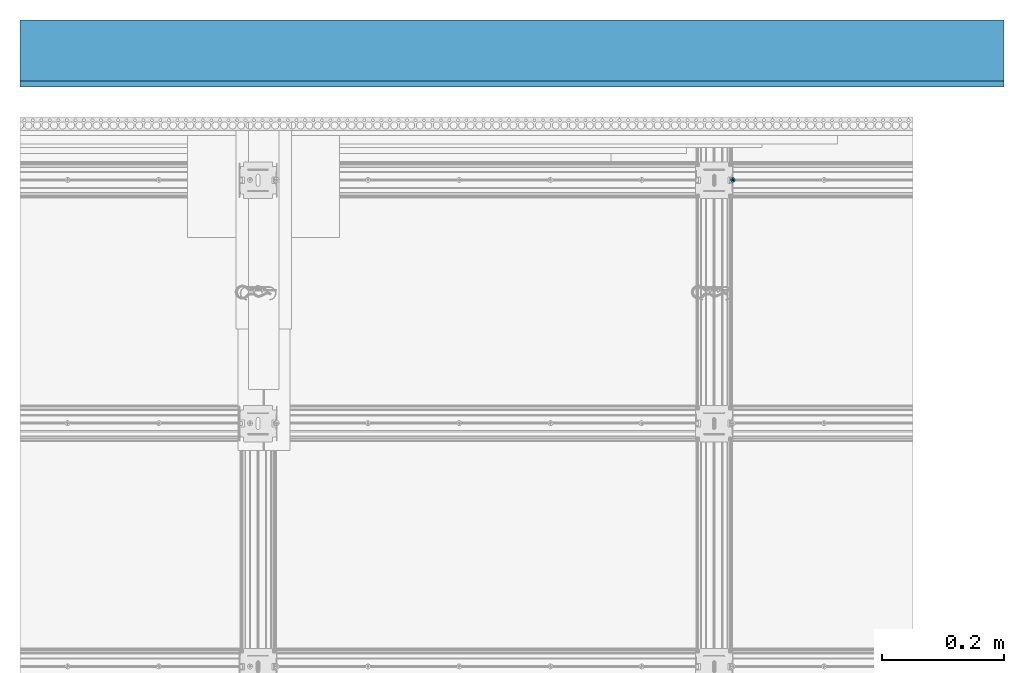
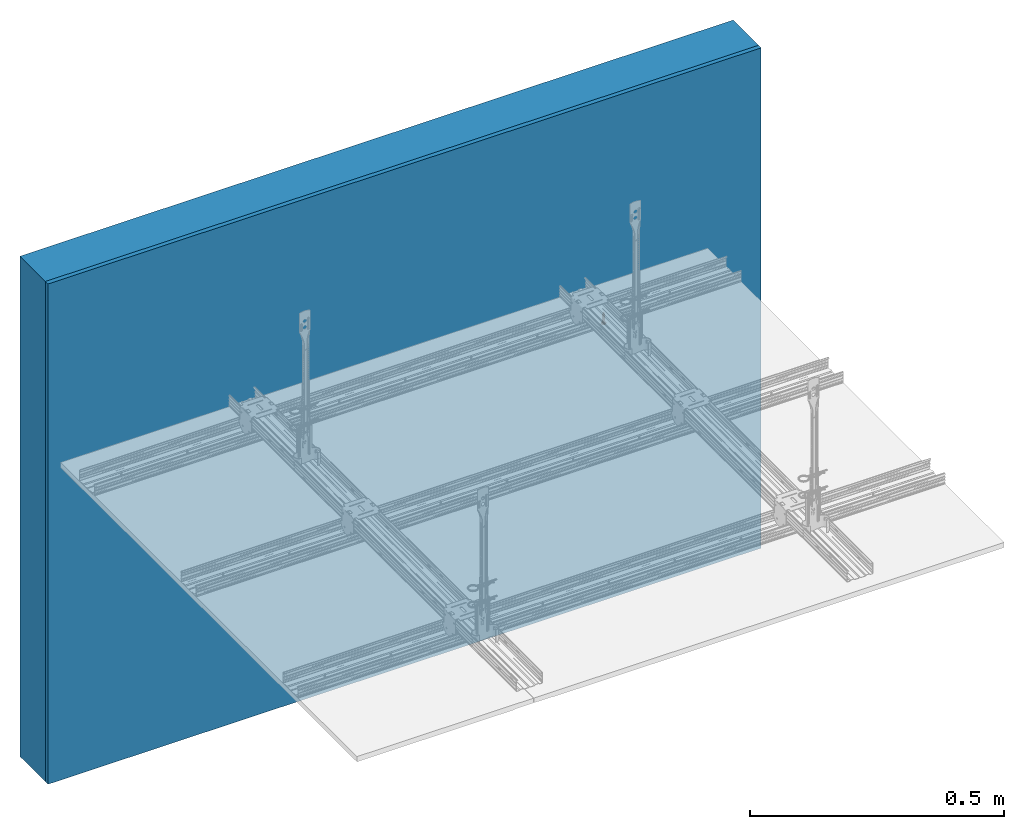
# One storey, part 34 of 34: 2 walls, 1 slab.
"""IFC2X3 building model written with IfcOpenShell, lengths in millimetres."""

from ifc_helpers import new_model, entity, si_unit, converted_unit, direction, frame, origin, origin_with_axes, place, context, project, spatial, faceted_brep, element, save


model = new_model("IFC2X3")

# Units and contexts
model_context = context("Model", 3, precision=1e-05, world=origin(), true_north=direction((0.0, 1.0, 0.0)))
ifc_project = project(units=[si_unit("LENGTHUNIT", "METRE", prefix="MILLI"), si_unit("AREAUNIT", "SQUARE_METRE"), si_unit("VOLUMEUNIT", "CUBIC_METRE"), converted_unit("PLANEANGLEUNIT", "DEGREE", entity("IfcPlaneAngleMeasure", 0.01745), si_unit("PLANEANGLEUNIT", "RADIAN"), dimensions=[0, 0, 0, 0, 0, 0, 0]), si_unit("SOLIDANGLEUNIT", "STERADIAN"), si_unit("MASSUNIT", "GRAM"), si_unit("TIMEUNIT", "SECOND"), si_unit("THERMODYNAMICTEMPERATUREUNIT", "DEGREE_CELSIUS"), si_unit("LUMINOUSINTENSITYUNIT", "LUMEN")], contexts=[model_context])

# Site, building, storey
site_placement = place(None, origin_with_axes())
site = spatial("IfcSite", under=ifc_project, at=site_placement, Name="Default Site", CompositionType="ELEMENT")
building_placement = place(site_placement, origin_with_axes())
building = spatial("IfcBuilding", under=site, at=building_placement, Name="Default Building", CompositionType="ELEMENT")
storey_placement = place(building_placement, origin_with_axes())
storey = spatial("IfcBuildingStorey", under=building, at=storey_placement, Name="Default Building Storey", CompositionType="ELEMENT", Elevation=0.0)

# Slab
slab_placement = place(storey_placement, frame((3434.616074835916, 1323.338377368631, 4371.30616226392), z_axis=(0.0, 1.0, 2.220446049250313e-16), x_axis=(1.0, -1.802054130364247e-31, 8.115730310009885e-16)))
element("IfcSlab", 1, at=slab_placement, inside=storey, Name="Wkręt RIGIPS TN 25", context=model_context, shape_type="Brep", body=[
    faceted_brep([(-136.5890362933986, 3387.475459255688, 554.9298199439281), (-136.4636235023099, 3387.475459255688, 555.0766594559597), (-136.4636235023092, 3370.55807436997, 555.0766594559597), (-136.5890362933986, 3370.55807436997, 554.9298199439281), (-136.9005263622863, 3387.475459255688, 554.7035091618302), (-136.9005263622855, 3370.55807436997, 554.7035091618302), (-137.0789337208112, 3370.55807436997, 554.6296104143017), (-137.078933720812, 3387.475459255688, 554.6296104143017), (-137.2667048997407, 3387.475459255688, 554.5845305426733), (-137.2667048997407, 3370.55807436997, 554.5845305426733), (-137.4592163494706, 3370.55807436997, 554.5693795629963), (-137.4592163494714, 3387.475459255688, 554.5693795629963), (-136.4636235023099, 3387.475459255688, 556.5233405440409), (-136.5890362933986, 3387.475459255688, 556.6701800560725), (-136.5890362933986, 3370.55807436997, 556.6701800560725), (-136.4636235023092, 3370.55807436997, 556.5233405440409), (-138.4548091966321, 3370.55807436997, 556.5233405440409), (-138.3293964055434, 3370.55807436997, 556.6701800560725), (-138.3293964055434, 3387.475459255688, 556.6701800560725), (-138.4548091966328, 3387.475459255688, 556.5233405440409), (-136.7358758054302, 3370.55807436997, 554.8044071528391), (-136.7358758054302, 3387.475459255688, 554.8044071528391), (-138.1825568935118, 3387.475459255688, 556.7955928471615), (-138.1825568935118, 3370.55807436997, 556.7955928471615), (-138.0179063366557, 3370.55807436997, 556.8964908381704), (-138.0179063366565, 3387.475459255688, 556.8964908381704), (-136.3627255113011, 3387.475459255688, 556.3586899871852), (-136.3627255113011, 3370.55807436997, 556.3586899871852), (-136.7358758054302, 3387.475459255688, 556.7955928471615), (-136.7358758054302, 3370.55807436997, 556.7955928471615), (-137.6517277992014, 3387.475459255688, 554.5845305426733), (-137.6517277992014, 3370.55807436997, 554.5845305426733), (-137.83949897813, 3370.55807436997, 554.6296104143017), (-137.8394989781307, 3387.475459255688, 554.6296104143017), (-136.3627255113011, 3387.475459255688, 555.241310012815), (-136.3627255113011, 3370.55807436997, 555.241310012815), (-138.0179063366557, 3370.55807436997, 554.7035091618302), (-138.0179063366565, 3387.475459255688, 554.7035091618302), (-138.6746858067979, 3370.55807436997, 555.6074885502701), (-138.6898367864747, 3370.55807436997, 555.8000000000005), (-138.6898367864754, 3387.475459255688, 555.8000000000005), (-138.6746858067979, 3387.475459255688, 555.6074885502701), (-136.2285959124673, 3387.475459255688, 555.8000000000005), (-136.2437468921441, 3387.475459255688, 555.9925114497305), (-136.2437468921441, 3370.55807436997, 555.9925114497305), (-136.2285959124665, 3370.55807436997, 555.8000000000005), (-138.3293964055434, 3370.55807436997, 554.9298199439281), (-138.4548091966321, 3370.55807436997, 555.0766594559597), (-138.4548091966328, 3387.475459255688, 555.0766594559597), (-138.3293964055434, 3387.475459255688, 554.9298199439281), (-137.83949897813, 3370.55807436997, 556.9703895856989), (-137.8394989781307, 3387.475459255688, 556.9703895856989), (-138.1825568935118, 3370.55807436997, 554.8044071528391), (-138.1825568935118, 3387.475459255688, 554.8044071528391), (-138.5557071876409, 3370.55807436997, 555.241310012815), (-138.6296059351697, 3370.55807436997, 555.4197173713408), (-138.6296059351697, 3387.475459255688, 555.4197173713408), (-138.5557071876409, 3387.475459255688, 555.241310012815), (-136.2888267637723, 3387.475459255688, 555.4197173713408), (-136.2437468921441, 3387.475459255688, 555.6074885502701), (-136.2437468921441, 3370.55807436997, 555.6074885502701), (-136.2888267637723, 3370.55807436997, 555.4197173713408), (-136.2888267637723, 3387.475459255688, 556.1802826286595), (-136.2888267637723, 3370.55807436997, 556.1802826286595), (-137.4592163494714, 3387.475459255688, 557.0306204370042), (-137.4592163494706, 3370.55807436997, 557.0306204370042), (-137.2667048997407, 3370.55807436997, 557.0154694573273), (-137.2667048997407, 3387.475459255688, 557.0154694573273), (-137.0789337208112, 3370.55807436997, 556.9703895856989), (-137.078933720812, 3387.475459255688, 556.9703895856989), (-137.6517277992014, 3387.475459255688, 557.0154694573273), (-137.6517277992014, 3370.55807436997, 557.0154694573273), (-136.9005263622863, 3387.475459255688, 556.8964908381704), (-136.9005263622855, 3370.55807436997, 556.8964908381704), (-138.6296059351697, 3370.55807436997, 556.1802826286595), (-138.5557071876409, 3370.55807436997, 556.3586899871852), (-138.5557071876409, 3387.475459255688, 556.3586899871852), (-138.6296059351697, 3387.475459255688, 556.1802826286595), (-138.6746858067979, 3370.55807436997, 555.9925114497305), (-138.6746858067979, 3387.475459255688, 555.9925114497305), (-141.5377463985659, 3390.556721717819, 555.8000000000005), (-141.5377463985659, 3391.020944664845, 555.8000000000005), (-141.4875329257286, 3391.020944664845, 555.1619773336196), (-141.4875329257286, 3390.556721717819, 555.1619773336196), (-141.338128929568, 3391.020944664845, 554.539664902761), (-141.338128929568, 3390.556721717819, 554.539664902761), (-141.0932132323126, 3391.020944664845, 553.948386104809), (-141.0932132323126, 3390.556721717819, 553.948386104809), (-140.7588164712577, 3391.020944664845, 553.4027001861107), (-140.7588164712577, 3390.556721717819, 553.4027001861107), (-140.3431726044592, 3391.020944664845, 552.9160437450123), (-140.4541727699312, 3390.556721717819, 553.0314907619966), (-140.1080097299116, 3390.556721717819, 552.6986614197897), (-139.8565161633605, 3391.020944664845, 552.5003998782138), (-139.7251262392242, 3390.556721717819, 552.4088262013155), (-139.3108302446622, 3391.020944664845, 552.1660031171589), (-139.3108302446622, 3390.556721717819, 552.1660031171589), (-138.8708651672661, 3390.556721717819, 551.9735584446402), (-138.7195514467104, 3391.020944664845, 551.9210874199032), (-138.4113302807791, 3390.556721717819, 551.8341600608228), (-137.9385961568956, 3390.556721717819, 551.7497404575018), (-138.0972390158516, 3391.020944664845, 551.7716834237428), (-137.4592163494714, 3391.020944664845, 551.7214699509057), (-137.4592163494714, 3390.556721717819, 551.7214699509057), (-136.8211936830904, 3391.020944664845, 551.7716834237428), (-136.8211936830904, 3390.556721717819, 551.7716834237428), (-136.1988812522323, 3391.020944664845, 551.9210874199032), (-136.1988812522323, 3390.556721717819, 551.9210874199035), (-135.6076024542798, 3391.020944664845, 552.1660031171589), (-135.6076024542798, 3390.556721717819, 552.1660031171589), (-135.0619165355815, 3391.020944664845, 552.5003998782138), (-135.0619165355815, 3390.556721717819, 552.5003998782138), (-134.5752600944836, 3391.020944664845, 552.9160437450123), (-134.5752600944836, 3390.556721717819, 552.9160437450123), (-134.1596162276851, 3391.020944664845, 553.4027001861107), (-134.1596162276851, 3390.556721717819, 553.4027001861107), (-133.8252194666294, 3391.020944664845, 553.948386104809), (-133.8252194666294, 3390.556721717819, 553.948386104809), (-133.580303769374, 3391.020944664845, 554.539664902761), (-133.580303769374, 3390.556721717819, 554.539664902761), (-133.4308997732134, 3391.020944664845, 556.438022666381), (-133.4308997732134, 3390.556721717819, 556.438022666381), (-133.3806863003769, 3390.556721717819, 555.8000000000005), (-133.3806863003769, 3391.020944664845, 555.8000000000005), (-133.4308997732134, 3390.556721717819, 555.1619773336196), (-133.4308997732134, 3391.020944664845, 555.1619773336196), (-133.580303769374, 3391.020944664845, 557.0603350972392), (-133.580303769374, 3390.556721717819, 557.0603350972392), (-133.8252194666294, 3391.020944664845, 557.6516138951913), (-133.8252194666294, 3390.556721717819, 557.6516138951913), (-134.1596162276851, 3391.020944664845, 558.1972998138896), (-134.1596162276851, 3390.556721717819, 558.1972998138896), (-134.5752600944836, 3391.020944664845, 558.683956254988), (-134.5752600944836, 3390.556721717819, 558.683956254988), (-135.0619165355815, 3391.020944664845, 559.0996001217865), (-135.0619165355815, 3390.556721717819, 559.0996001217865), (-135.6076024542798, 3391.020944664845, 559.4339968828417), (-135.6076024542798, 3390.556721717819, 559.4339968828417), (-136.1988812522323, 3391.020944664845, 559.6789125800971), (-136.1988812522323, 3390.556721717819, 559.6789125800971), (-136.8211936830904, 3391.020944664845, 559.8283165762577), (-136.8211936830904, 3390.556721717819, 559.8283165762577), (-137.4592163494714, 3391.020944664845, 559.8785300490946), (-137.4592163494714, 3390.556721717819, 559.8785300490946), (-138.0972390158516, 3391.020944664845, 559.8283165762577), (-138.0972390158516, 3390.556721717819, 559.8283165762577), (-138.7195514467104, 3391.020944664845, 559.6789125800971), (-138.7195514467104, 3390.556721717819, 559.6789125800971), (-139.3108302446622, 3391.020944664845, 559.4339968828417), (-139.3108302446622, 3390.556721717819, 559.4339968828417), (-139.8565161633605, 3391.020944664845, 559.0996001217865), (-139.8565161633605, 3390.556721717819, 559.0996001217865), (-140.3431726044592, 3391.020944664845, 558.683956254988), (-140.3431726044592, 3390.556721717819, 558.683956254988), (-140.7588164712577, 3391.020944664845, 558.1972998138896), (-140.7588164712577, 3390.556721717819, 558.1972998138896), (-141.0932132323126, 3391.020944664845, 557.6516138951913), (-141.0932132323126, 3390.556721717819, 557.6516138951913), (-141.338128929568, 3391.020944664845, 557.0603350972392), (-141.338128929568, 3390.556721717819, 557.0603350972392), (-141.4875329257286, 3391.020944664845, 556.438022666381), (-141.4875329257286, 3390.556721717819, 556.438022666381), (-137.8060615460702, 3388.229732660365, 554.5055560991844), (-137.4592163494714, 3388.229732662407, 554.4598930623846), (-138.1292698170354, 3388.229732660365, 554.6394333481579), (-138.4068150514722, 3388.229732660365, 554.8524012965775), (-138.6197830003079, 3388.229732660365, 555.1299465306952), (-138.7536602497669, 3388.229732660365, 555.4531548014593), (-138.7993232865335, 3388.229732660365, 555.7999999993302), (-138.7536602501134, 3388.229732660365, 556.1468451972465), (-138.6197830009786, 3388.229732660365, 556.4700534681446), (-138.4068150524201, 3388.229732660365, 556.7475987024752), (-138.1292698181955, 3388.229732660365, 556.9605666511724), (-137.8060615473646, 3388.229732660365, 557.0944439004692), (-137.4592163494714, 3388.229732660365, 557.1401069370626), (-137.1123711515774, 3388.229732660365, 557.0944439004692), (-136.7891628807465, 3388.229732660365, 556.9605666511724), (-136.5116176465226, 3388.229732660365, 556.7475987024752), (-136.2986496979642, 3388.229732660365, 556.4700534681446), (-136.1647724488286, 3388.229732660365, 556.1468451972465), (-136.1191094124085, 3388.229732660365, 555.7999999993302), (-136.1647724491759, 3388.229732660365, 555.4531548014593), (-136.2986496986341, 3388.229732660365, 555.1299465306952), (-136.5116176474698, 3388.229732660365, 554.8524012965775), (-136.7891628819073, 3388.229732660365, 554.6394333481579), (-137.1123711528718, 3388.229732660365, 554.5055560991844), (-137.4592163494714, 3388.936142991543, 554.1737111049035), (-137.8801308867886, 3388.936142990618, 554.2291255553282), (-138.2723607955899, 3388.936142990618, 554.39159250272), (-138.6091762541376, 3388.936142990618, 554.6500400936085), (-138.8676238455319, 3388.936142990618, 554.9868555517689), (-139.0300907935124, 3388.936142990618, 555.3790854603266), (-139.0855052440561, 3388.936142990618, 555.7999999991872), (-139.0300907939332, 3388.936142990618, 556.2209145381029), (-138.8676238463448, 3388.936142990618, 556.6131444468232), (-138.6091762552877, 3388.936142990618, 556.949959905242), (-138.2723607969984, 3388.936142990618, 557.2084074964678), (-137.8801308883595, 3388.936142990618, 557.3708744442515), (-137.4592163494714, 3388.936142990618, 557.4262888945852), (-137.0383018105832, 3388.936142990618, 557.3708744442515), (-136.6460719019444, 3388.936142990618, 557.2084074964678), (-136.3092564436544, 3388.936142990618, 556.949959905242), (-136.0508088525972, 3388.936142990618, 556.6131444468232), (-135.8883419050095, 3388.936142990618, 556.2209145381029), (-135.8329274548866, 3388.936142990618, 555.7999999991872), (-135.8883419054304, 3388.936142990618, 555.3790854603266), (-136.0508088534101, 3388.936142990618, 554.9868555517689), (-136.3092564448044, 3388.936142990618, 554.6500400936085), (-136.6460719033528, 3388.936142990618, 554.39159250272), (-137.0383018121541, 3388.936142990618, 554.2291255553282), (-137.4592163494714, 3389.553938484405, 553.727343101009), (-137.9956594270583, 3389.553938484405, 553.7979671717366), (-138.4955447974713, 3389.553938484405, 554.0050264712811), (-138.9248060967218, 3389.553938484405, 554.3344102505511), (-139.2541898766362, 3389.553938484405, 554.7636715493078), (-139.46124917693, 3389.553938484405, 555.2635569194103), (-139.5318732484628, 3389.553938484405, 555.7999999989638), (-139.4612491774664, 3389.553938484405, 556.3364430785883), (-139.2541898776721, 3389.553938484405, 556.8363284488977), (-138.9248060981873, 3389.553938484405, 557.2655897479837), (-138.495544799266, 3389.553938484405, 557.5949735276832), (-137.9956594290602, 3389.553938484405, 557.8020328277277), (-137.4592163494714, 3389.553938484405, 557.8726568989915), (-136.9227732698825, 3389.553938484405, 557.8020328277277), (-136.422887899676, 3389.553938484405, 557.5949735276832), (-135.9936266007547, 3389.553938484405, 557.2655897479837), (-135.6642428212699, 3389.553938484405, 556.8363284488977), (-135.4571835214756, 3389.553938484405, 556.3364430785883), (-135.3865594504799, 3389.553938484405, 555.7999999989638), (-135.457183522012, 3389.553938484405, 555.2635569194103), (-135.6642428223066, 3389.553938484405, 554.7636715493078), (-135.9936266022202, 3389.553938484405, 554.3344102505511), (-136.4228879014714, 3389.553938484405, 554.0050264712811), (-136.9227732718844, 3389.553938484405, 553.7979671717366), (-137.4592163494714, 3390.04747944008, 553.1465393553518), (-138.1459824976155, 3390.047479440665, 553.2369538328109), (-138.7859466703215, 3390.047479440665, 553.5020356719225), (-139.3354963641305, 3390.047479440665, 553.9237199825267), (-139.757180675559, 3390.047479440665, 554.4732696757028), (-140.0222625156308, 3390.047479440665, 555.1132338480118), (-140.1126769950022, 3390.047479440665, 555.7999999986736), (-140.0222625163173, 3390.047479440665, 556.4867661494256), (-139.7571806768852, 3390.047479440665, 557.1267303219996), (-139.3354963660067, 3390.047479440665, 557.6762800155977), (-138.7859466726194, 3390.047479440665, 558.0979643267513), (-138.1459825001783, 3390.047479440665, 558.3630461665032), (-137.4592163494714, 3390.047479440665, 558.4534606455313), (-136.7724501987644, 3390.047479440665, 558.3630461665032), (-136.1324860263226, 3390.047479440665, 558.0979643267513), (-135.5829363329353, 3390.047479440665, 557.6762800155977), (-135.1612520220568, 3390.047479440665, 557.1267303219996), (-134.8961701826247, 3390.047479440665, 556.4867661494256), (-134.8057557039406, 3390.047479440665, 555.7999999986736), (-134.8961701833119, 3390.047479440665, 555.1132338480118), (-135.1612520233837, 3390.047479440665, 554.4732696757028), (-135.5829363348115, 3390.047479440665, 553.9237199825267), (-136.1324860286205, 3390.047479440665, 553.5020356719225), (-136.7724502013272, 3390.047479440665, 553.2369538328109), (-137.4592163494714, 3390.388294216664, 552.4648055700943), (-138.3224281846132, 3390.388294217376, 552.5784495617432), (-139.1268135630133, 3390.388294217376, 552.9116368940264), (-139.8175549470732, 3390.388294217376, 553.4416613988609), (-140.3475794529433, 3390.388294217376, 554.1324027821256), (-140.6807667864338, 3390.388294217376, 554.9367881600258), (-140.7944107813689, 3390.388294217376, 555.7999999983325), (-140.6807667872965, 3390.388294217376, 556.6632118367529), (-140.3475794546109, 3390.388294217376, 557.4675972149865), (-139.8175549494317, 3390.388294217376, 558.1583385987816), (-139.1268135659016, 3390.388294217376, 558.6883631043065), (-138.3224281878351, 3390.388294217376, 559.0215504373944), (-137.4592163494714, 3390.388294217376, 559.1351944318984), (-136.5960045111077, 3390.388294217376, 559.0215504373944), (-135.7916191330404, 3390.388294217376, 558.6883631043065), (-135.1008777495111, 3390.388294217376, 558.1583385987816), (-134.5708532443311, 3390.388294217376, 557.4675972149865), (-134.2376659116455, 3390.388294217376, 556.6632118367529), (-134.1240219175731, 3390.388294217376, 555.7999999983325), (-134.2376659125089, 3390.388294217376, 554.9367881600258), (-134.5708532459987, 3390.388294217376, 554.1324027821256), (-135.1008777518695, 3390.388294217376, 553.4416613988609), (-135.7916191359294, 3390.388294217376, 552.9116368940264), (-136.5960045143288, 3390.388294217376, 552.5784495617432), (-137.4592163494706, 3366.021033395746, 555.8000000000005), (-139.9592163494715, 3391.020944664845, 556.3000000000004), (-137.9592163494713, 3391.020944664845, 556.3000000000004), (-139.9592163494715, 3391.020944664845, 555.3000000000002), (-137.9592163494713, 3391.020944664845, 555.3000000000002), (-137.9592163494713, 3391.020944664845, 553.3000000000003), (-136.9592163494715, 3391.020944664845, 553.3000000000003), (-136.9592163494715, 3391.020944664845, 555.3000000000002), (-134.9592163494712, 3391.020944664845, 555.3000000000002), (-134.9592163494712, 3391.020944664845, 556.3000000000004), (-136.9592163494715, 3391.020944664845, 556.3000000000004), (-136.9592163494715, 3391.020944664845, 558.3000000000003), (-137.9592163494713, 3391.020944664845, 558.3000000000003), (-136.9592163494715, 3390.128974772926, 556.3000000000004), (-134.9592163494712, 3390.128974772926, 556.3000000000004), (-134.9592163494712, 3390.128974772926, 555.3000000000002), (-136.9592163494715, 3390.128974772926, 555.3000000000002), (-136.9592163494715, 3390.128974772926, 553.3000000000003), (-137.9592163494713, 3390.128974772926, 553.3000000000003), (-137.9592163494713, 3390.128974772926, 555.3000000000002), (-139.9592163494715, 3390.128974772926, 555.3000000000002), (-139.9592163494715, 3390.128974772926, 556.3000000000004), (-137.9592163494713, 3390.128974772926, 556.3000000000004), (-137.9592163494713, 3390.128974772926, 558.3000000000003), (-136.9592163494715, 3390.128974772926, 558.3000000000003)], [[[0, 1, 2, 3]], [[4, 5, 6, 7]], [[8, 9, 10, 11]], [[12, 13, 14, 15]], [[16, 17, 18, 19]], [[0, 3, 20, 21]], [[22, 23, 24, 25]], [[26, 12, 15, 27]], [[28, 29, 14, 13]], [[30, 31, 32, 33]], [[1, 34, 35, 2]], [[18, 17, 23, 22]], [[7, 6, 9, 8]], [[33, 32, 36, 37]], [[38, 39, 40, 41]], [[42, 43, 44, 45]], [[46, 47, 48, 49]], [[25, 24, 50, 51]], [[37, 36, 52, 53]], [[54, 55, 56, 57]], [[53, 52, 46, 49]], [[47, 54, 57, 48]], [[58, 59, 60, 61]], [[59, 42, 45, 60]], [[43, 62, 63, 44]], [[64, 65, 66, 67]], [[67, 66, 68, 69]], [[55, 38, 41, 56]], [[70, 71, 65, 64]], [[72, 73, 29, 28]], [[74, 75, 76, 77]], [[69, 68, 73, 72]], [[39, 78, 79, 40]], [[75, 16, 19, 76]], [[62, 26, 27, 63]], [[11, 10, 31, 30]], [[21, 20, 5, 4]], [[34, 58, 61, 35]], [[51, 50, 71, 70]], [[78, 74, 77, 79]], [[80, 81, 82, 83]], [[84, 85, 83, 82]], [[86, 87, 85, 84]], [[87, 86, 88, 89]], [[88, 90, 89]], [[90, 91, 89]], [[92, 91, 93]], [[91, 90, 93]], [[93, 94, 92]], [[93, 95, 94]], [[95, 96, 94]], [[97, 96, 98]], [[96, 95, 98]], [[98, 99, 97]], [[100, 99, 101]], [[99, 98, 101]], [[101, 102, 100]], [[102, 103, 100]], [[103, 102, 104, 105]], [[106, 107, 105, 104]], [[108, 109, 107, 106]], [[109, 108, 110, 111]], [[112, 113, 111, 110]], [[113, 112, 114, 115]], [[116, 117, 115, 114]], [[118, 119, 117, 116]], [[120, 121, 122, 123]], [[123, 122, 124, 125]], [[119, 118, 125, 124]], [[126, 127, 121, 120]], [[128, 129, 127, 126]], [[129, 128, 130, 131]], [[132, 133, 131, 130]], [[133, 132, 134, 135]], [[136, 137, 135, 134]], [[138, 139, 137, 136]], [[139, 138, 140, 141]], [[142, 143, 141, 140]], [[143, 142, 144, 145]], [[146, 147, 145, 144]], [[148, 149, 147, 146]], [[149, 148, 150, 151]], [[152, 153, 151, 150]], [[153, 152, 154, 155]], [[156, 157, 155, 154]], [[158, 159, 157, 156]], [[159, 158, 160, 161]], [[81, 80, 161, 160]], [[162, 11, 30]], [[162, 163, 11]], [[30, 33, 162]], [[162, 33, 164]], [[37, 164, 33]], [[164, 37, 53]], [[53, 165, 164]], [[53, 49, 165]], [[166, 49, 48]], [[166, 165, 49]], [[48, 57, 166]], [[166, 57, 167]], [[56, 167, 57]], [[167, 56, 41]], [[41, 168, 167]], [[41, 40, 168]], [[169, 40, 79]], [[169, 168, 40]], [[79, 77, 169]], [[169, 77, 170]], [[76, 170, 77]], [[170, 76, 19]], [[19, 171, 170]], [[19, 18, 171]], [[172, 18, 22]], [[172, 171, 18]], [[22, 25, 172]], [[172, 25, 173]], [[51, 173, 25]], [[173, 51, 70]], [[70, 174, 173]], [[70, 64, 174]], [[175, 64, 67]], [[175, 174, 64]], [[67, 69, 175]], [[175, 69, 176]], [[72, 176, 69]], [[176, 72, 28]], [[28, 177, 176]], [[28, 13, 177]], [[178, 13, 12]], [[178, 177, 13]], [[12, 26, 178]], [[178, 26, 179]], [[62, 179, 26]], [[179, 62, 43]], [[43, 180, 179]], [[43, 42, 180]], [[181, 42, 59]], [[181, 180, 42]], [[59, 58, 181]], [[181, 58, 182]], [[34, 182, 58]], [[182, 34, 1]], [[1, 183, 182]], [[1, 0, 183]], [[184, 0, 21]], [[184, 183, 0]], [[21, 4, 184]], [[184, 4, 185]], [[7, 185, 4]], [[185, 7, 8]], [[8, 163, 185]], [[8, 11, 163]], [[186, 163, 187]], [[162, 187, 163]], [[164, 188, 187, 162]], [[165, 189, 188, 164]], [[166, 190, 189, 165]], [[167, 191, 190, 166]], [[168, 192, 191, 167]], [[169, 193, 192, 168]], [[170, 194, 193, 169]], [[171, 195, 194, 170]], [[172, 196, 195, 171]], [[173, 197, 196, 172]], [[174, 198, 197, 173]], [[175, 199, 198, 174]], [[176, 200, 199, 175]], [[177, 201, 200, 176]], [[178, 202, 201, 177]], [[179, 203, 202, 178]], [[180, 204, 203, 179]], [[181, 205, 204, 180]], [[182, 206, 205, 181]], [[183, 207, 206, 182]], [[184, 208, 207, 183]], [[185, 209, 208, 184]], [[185, 163, 209]], [[186, 209, 163]], [[210, 186, 211]], [[187, 211, 186]], [[188, 212, 211, 187]], [[189, 213, 212, 188]], [[190, 214, 213, 189]], [[191, 215, 214, 190]], [[192, 216, 215, 191]], [[193, 217, 216, 192]], [[194, 218, 217, 193]], [[195, 219, 218, 194]], [[196, 220, 219, 195]], [[197, 221, 220, 196]], [[198, 222, 221, 197]], [[199, 223, 222, 198]], [[200, 224, 223, 199]], [[201, 225, 224, 200]], [[202, 226, 225, 201]], [[203, 227, 226, 202]], [[204, 228, 227, 203]], [[205, 229, 228, 204]], [[206, 230, 229, 205]], [[207, 231, 230, 206]], [[208, 232, 231, 207]], [[209, 233, 232, 208]], [[209, 186, 233]], [[210, 233, 186]], [[234, 210, 235]], [[211, 235, 210]], [[212, 236, 235, 211]], [[213, 237, 236, 212]], [[214, 238, 237, 213]], [[215, 239, 238, 214]], [[216, 240, 239, 215]], [[217, 241, 240, 216]], [[218, 242, 241, 217]], [[219, 243, 242, 218]], [[220, 244, 243, 219]], [[221, 245, 244, 220]], [[222, 246, 245, 221]], [[223, 247, 246, 222]], [[224, 248, 247, 223]], [[225, 249, 248, 224]], [[226, 250, 249, 225]], [[227, 251, 250, 226]], [[228, 252, 251, 227]], [[229, 253, 252, 228]], [[230, 254, 253, 229]], [[231, 255, 254, 230]], [[232, 256, 255, 231]], [[233, 257, 256, 232]], [[233, 210, 257]], [[234, 257, 210]], [[258, 99, 100]], [[258, 259, 99]], [[100, 103, 258]], [[258, 234, 259]], [[235, 259, 234]], [[259, 96, 97]], [[259, 260, 96]], [[97, 99, 259]], [[236, 260, 259, 235]], [[261, 91, 92]], [[260, 92, 94]], [[260, 261, 92]], [[94, 96, 260]], [[237, 261, 260, 236]], [[262, 87, 89]], [[89, 261, 262]], [[89, 91, 261]], [[238, 262, 261, 237]], [[85, 87, 263]], [[262, 263, 87]], [[239, 263, 262, 238]], [[263, 80, 83]], [[263, 264, 80]], [[83, 85, 263]], [[240, 264, 263, 239]], [[265, 159, 161]], [[161, 264, 265]], [[161, 80, 264]], [[241, 265, 264, 240]], [[265, 266, 157, 159]], [[242, 266, 265, 241]], [[266, 153, 155]], [[266, 267, 153]], [[155, 157, 266]], [[243, 267, 266, 242]], [[268, 149, 151]], [[151, 267, 268]], [[151, 153, 267]], [[244, 268, 267, 243]], [[268, 269, 147, 149]], [[245, 269, 268, 244]], [[269, 143, 145]], [[269, 270, 143]], [[145, 147, 269]], [[246, 270, 269, 245]], [[271, 139, 141]], [[141, 270, 271]], [[141, 143, 270]], [[247, 271, 270, 246]], [[271, 272, 137, 139]], [[248, 272, 271, 247]], [[272, 133, 135]], [[272, 273, 133]], [[135, 137, 272]], [[249, 273, 272, 248]], [[274, 129, 131]], [[131, 273, 274]], [[131, 133, 273]], [[250, 274, 273, 249]], [[274, 275, 127, 129]], [[251, 275, 274, 250]], [[275, 122, 121]], [[275, 276, 122]], [[121, 127, 275]], [[252, 276, 275, 251]], [[277, 119, 124]], [[124, 276, 277]], [[124, 122, 276]], [[253, 277, 276, 252]], [[117, 119, 278]], [[277, 278, 119]], [[254, 278, 277, 253]], [[278, 113, 115]], [[278, 279, 113]], [[115, 117, 278]], [[255, 279, 278, 254]], [[280, 109, 111]], [[111, 279, 280]], [[111, 113, 279]], [[256, 280, 279, 255]], [[107, 109, 281]], [[280, 281, 109]], [[257, 281, 280, 256]], [[257, 234, 281]], [[258, 281, 234]], [[281, 103, 105]], [[281, 258, 103]], [[105, 107, 281]], [[38, 55, 282]], [[282, 39, 38]], [[55, 54, 282]], [[47, 46, 282]], [[282, 54, 47]], [[52, 36, 282]], [[282, 46, 52]], [[36, 32, 282]], [[31, 10, 282]], [[282, 32, 31]], [[9, 6, 282]], [[282, 10, 9]], [[6, 5, 282]], [[20, 3, 282]], [[282, 5, 20]], [[2, 35, 282]], [[282, 3, 2]], [[35, 61, 282]], [[60, 45, 282]], [[282, 61, 60]], [[44, 63, 282]], [[282, 45, 44]], [[63, 27, 282]], [[15, 14, 282]], [[282, 27, 15]], [[29, 73, 282]], [[282, 14, 29]], [[73, 68, 282]], [[66, 65, 282]], [[282, 68, 66]], [[71, 50, 282]], [[282, 65, 71]], [[50, 24, 282]], [[23, 17, 282]], [[282, 24, 23]], [[16, 75, 282]], [[282, 17, 16]], [[75, 74, 282]], [[78, 39, 282]], [[282, 74, 78]], [[283, 156, 154, 284]], [[283, 285, 286, 287, 288, 289, 290, 291, 292, 293, 294, 284, 154, 152, 150, 148, 146, 144, 142, 140, 138, 136, 134, 132, 130, 128, 126, 120, 123, 125, 118, 116, 114, 112, 110, 108, 106, 104, 102, 101, 98, 95, 93, 90, 88, 86, 84, 82, 81, 160, 158, 156]], [[295, 296, 297, 298, 299, 300, 301, 302, 303, 304, 305, 306]], [[297, 290, 289, 298]], [[296, 291, 290, 297]], [[295, 292, 291, 296]], [[306, 293, 292, 295]], [[305, 294, 293, 306]], [[304, 284, 294, 305]], [[303, 283, 284, 304]], [[302, 285, 283, 303]], [[301, 286, 285, 302]], [[300, 287, 286, 301]], [[299, 288, 287, 300]], [[298, 289, 288, 299]]]),
])

# Walls
wall_1_placement = place(storey_placement, frame((3516.951496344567, -1268.142300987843, 1387.224461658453), z_axis=(7.620176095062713e-14, 6.858158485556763e-13, -1.0), x_axis=(1.0, 9.714451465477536e-17, 7.62017609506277e-14)))
element("IfcWall", 2, at=wall_1_placement, inside=storey, Name="ŚCIANA", context=model_context, shape_type="Brep", body=[
    faceted_brep([(-1391.926362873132, -3410.283223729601, -4.2000000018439), (226.0891218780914, -3410.283223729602, -4.20000000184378), (226.0891218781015, -3310.283223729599, -4.200000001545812), (-1391.926362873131, -3310.283223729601, -4.200000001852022), (226.0891218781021, -3310.283223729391, 1195.799999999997), (-1391.926362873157, -3310.283223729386, 1195.800000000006), (226.0891218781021, -3410.28322372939, 1195.799999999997), (-1391.926362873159, -3410.28322372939, 1195.8)], [[[0, 1, 2, 3]], [[3, 2, 4, 5]], [[6, 7, 5, 4]], [[4, 2, 1, 6]], [[0, 7, 6, 1]], [[0, 3, 5, 7]]]),
])
wall_2_placement = place(storey_placement, frame((3516.951496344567, -1278.142300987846, 1387.22446165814), z_axis=(7.620176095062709e-14, 6.858158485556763e-13, -1.0), x_axis=(1.0, 9.714451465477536e-17, 7.62017609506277e-14)))
element("IfcWall", 3, at=wall_2_placement, inside=storey, Name="TYNK", context=model_context, shape_type="Brep", body=[
    faceted_brep([(-1391.926362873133, -3320.283223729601, -4.20000000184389), (226.0891218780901, -3320.283223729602, -4.200000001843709), (226.0891218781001, -3310.283223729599, -4.20000000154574), (-1391.926362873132, -3310.283223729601, -4.200000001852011), (226.0891218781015, -3310.283223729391, 1195.799999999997), (-1391.926362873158, -3310.283223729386, 1195.800000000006), (226.0891218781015, -3320.283223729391, 1195.799999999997), (-1391.92636287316, -3320.28322372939, 1195.8)], [[[0, 1, 2, 3]], [[3, 2, 4, 5]], [[6, 7, 5, 4]], [[4, 2, 1, 6]], [[0, 7, 6, 1]], [[0, 3, 5, 7]]]),
])

save(model, "model.ifc")
